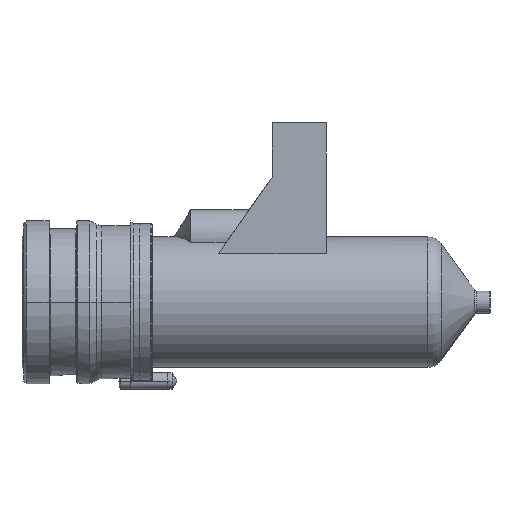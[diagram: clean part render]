
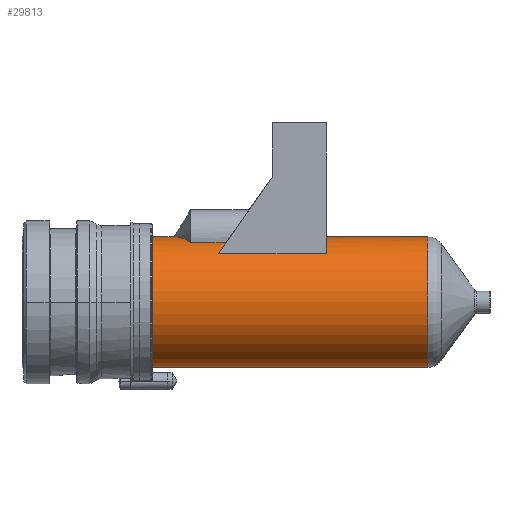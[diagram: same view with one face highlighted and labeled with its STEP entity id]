
A CAD part, left-side view. The second image highlights one B-rep face of the part: STEP entity #29813.
In plain terms, the highlighted cylindrical face has radius 12 mm (diameter 24 mm), a partial arc.
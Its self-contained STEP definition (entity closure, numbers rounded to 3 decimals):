
#29144=DIRECTION('',(0.,-1.,0.));
#29145=VECTOR('',#29144,19.842);
#29146=CARTESIAN_POINT('',(-8.,-36.158,8.944));
#29147=LINE('',#29146,#29145);
#29151=CARTESIAN_POINT('',(-4.89,-37.568,
10.958));
#29152=CARTESIAN_POINT('',(-5.478,-37.385,
10.696));
#29153=CARTESIAN_POINT('',(-6.58,-36.962,
10.092));
#29154=CARTESIAN_POINT('',(-7.548,-36.441,
9.349));
#29155=CARTESIAN_POINT('',(-8.,-36.158,8.944));
#29169=CARTESIAN_POINT('',(0.,-24.,0.));
#29170=DIRECTION('',(0.,1.,0.));
#29171=DIRECTION('',(0.,0.,-1.));
#29172=AXIS2_PLACEMENT_3D('',#29169,#29170,#29171);
#29192=CARTESIAN_POINT('',(0.,-56.,0.));
#29193=DIRECTION('',(0.,-1.,0.));
#29194=DIRECTION('',(0.,0.,1.));
#29195=AXIS2_PLACEMENT_3D('',#29192,#29193,#29194);
#29249=DIRECTION('',(0.,1.,0.));
#29250=VECTOR('',#29249,4.);
#29251=CARTESIAN_POINT('',(0.,-28.,12.));
#29252=LINE('',#29251,#29250);
#29264=DIRECTION('',(0.,1.,0.));
#29265=VECTOR('',#29264,50.671);
#29266=CARTESIAN_POINT('',(0.,-74.671,-12.));
#29267=LINE('',#29266,#29265);
#29271=DIRECTION('',(0.,1.,0.));
#29272=VECTOR('',#29271,18.671);
#29273=CARTESIAN_POINT('',(0.,-74.671,12.));
#29274=LINE('',#29273,#29272);
#29285=CARTESIAN_POINT('',(-4.89,-37.568,
10.958));
#29314=DIRECTION('',(0.,-1.,0.));
#29315=VECTOR('',#29314,6.564);
#29316=CARTESIAN_POINT('',(-4.89,-31.004,
10.958));
#29317=LINE('',#29316,#29315);
#29330=CARTESIAN_POINT('',(0.,-28.,12.));
#29343=CARTESIAN_POINT('',(0.,-28.,12.));
#29344=CARTESIAN_POINT('',(-0.24,-28.144,12.));
#29345=CARTESIAN_POINT('',(-0.72,-28.433,
11.986));
#29346=CARTESIAN_POINT('',(-1.438,-28.865,
11.921));
#29347=CARTESIAN_POINT('',(-2.151,-29.297,
11.813));
#29348=CARTESIAN_POINT('',(-2.855,-29.727,
11.663));
#29349=CARTESIAN_POINT('',(-3.549,-30.155,
11.471));
#29350=CARTESIAN_POINT('',(-4.229,-30.582,
11.238));
#29351=CARTESIAN_POINT('',(-4.672,-30.864,
11.056));
#29352=CARTESIAN_POINT('',(-4.89,-31.004,
10.958));
#29561=CARTESIAN_POINT('',(0.,-74.671,0.));
#29562=DIRECTION('',(0.,-1.,0.));
#29563=DIRECTION('',(0.,0.,1.));
#29564=AXIS2_PLACEMENT_3D('',#29561,#29562,#29563);
#29701=CARTESIAN_POINT('',(-8.,-36.158,8.944));
#29702=VERTEX_POINT('',#29701);
#29703=CARTESIAN_POINT('',(-8.,-56.,8.944));
#29704=VERTEX_POINT('',#29703);
#29709=VERTEX_POINT('',#29285);
#29711=CARTESIAN_POINT('',(-4.89,-31.004,
10.958));
#29713=VERTEX_POINT('',#29711);
#29719=CARTESIAN_POINT('',(0.,-74.671,-12.));
#29720=CARTESIAN_POINT('',(0.,-24.,-12.));
#29721=VERTEX_POINT('',#29719);
#29722=VERTEX_POINT('',#29720);
#29727=CARTESIAN_POINT('',(0.,-24.,12.));
#29728=VERTEX_POINT('',#29727);
#29737=CARTESIAN_POINT('',(0.,-74.671,12.));
#29738=VERTEX_POINT('',#29737);
#29748=CARTESIAN_POINT('',(0.,-56.,12.));
#29749=VERTEX_POINT('',#29748);
#29750=VERTEX_POINT('',#29330);
#29788=CARTESIAN_POINT('',(0.,-16.7,0.));
#29789=DIRECTION('',(0.,-1.,0.));
#29790=DIRECTION('',(0.,0.,1.));
#29791=AXIS2_PLACEMENT_3D('',#29788,#29789,#29790);
#29792=CYLINDRICAL_SURFACE('',#29791,12.);
#29793=ORIENTED_EDGE('',*,*,#29764,.T.);
#29795=ORIENTED_EDGE('',*,*,#29794,.F.);
#29797=ORIENTED_EDGE('',*,*,#29796,.F.);
#29799=ORIENTED_EDGE('',*,*,#29798,.T.);
#29801=ORIENTED_EDGE('',*,*,#29800,.T.);
#29803=ORIENTED_EDGE('',*,*,#29802,.T.);
#29805=ORIENTED_EDGE('',*,*,#29804,.F.);
#29807=ORIENTED_EDGE('',*,*,#29806,.T.);
#29809=ORIENTED_EDGE('',*,*,#29808,.T.);
#29810=ORIENTED_EDGE('',*,*,#29775,.T.);
#29811=EDGE_LOOP('',(#29793,#29795,#29797,#29799,#29801,#29803,#29805,#29807,
#29809,#29810));
#29812=FACE_OUTER_BOUND('',#29811,.F.);
#29813=ADVANCED_FACE('',(#29812),#29792,.T.);
#29156=B_SPLINE_CURVE_WITH_KNOTS('',3,(#29151,#29152,#29153,#29154,#29155),
.UNSPECIFIED.,.F.,.F.,(4,1,4),(0.,0.5,1.),.UNSPECIFIED.);
#29173=CIRCLE('',#29172,12.);
#29196=CIRCLE('',#29195,12.);
#29353=B_SPLINE_CURVE_WITH_KNOTS('',3,(#29343,#29344,#29345,#29346,#29347,
#29348,#29349,#29350,#29351,#29352),.UNSPECIFIED.,.F.,.F.,(4,1,1,1,1,1,1,4),(
0.,0.143,0.286,0.429,0.571,
0.714,0.857,1.),.UNSPECIFIED.);
#29565=CIRCLE('',#29564,12.);
#29764=EDGE_CURVE('',#29702,#29704,#29147,.T.);
#29775=EDGE_CURVE('',#29709,#29702,#29156,.T.);
#29794=EDGE_CURVE('',#29749,#29704,#29196,.T.);
#29796=EDGE_CURVE('',#29738,#29749,#29274,.T.);
#29798=EDGE_CURVE('',#29738,#29721,#29565,.T.);
#29800=EDGE_CURVE('',#29721,#29722,#29267,.T.);
#29802=EDGE_CURVE('',#29722,#29728,#29173,.T.);
#29804=EDGE_CURVE('',#29750,#29728,#29252,.T.);
#29806=EDGE_CURVE('',#29750,#29713,#29353,.T.);
#29808=EDGE_CURVE('',#29713,#29709,#29317,.T.);
